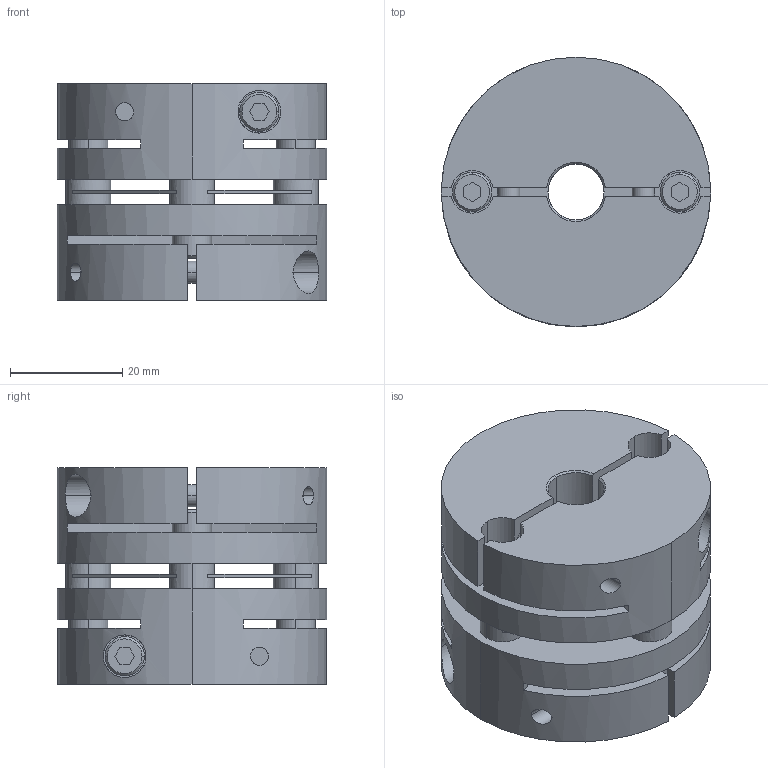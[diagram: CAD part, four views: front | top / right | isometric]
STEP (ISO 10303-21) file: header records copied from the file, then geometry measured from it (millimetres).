
FILE_DESCRIPTION((''),'2;1');
FILE_NAME('LAS-48C-10×10.stp','2015-10-14T15:33:41',(''),(''),'AutoCAD STEP 2000i','AutoCAD 2000i',', , ');
FILE_SCHEMA(('CONFIG_CONTROL_DESIGN'));
Length unit declared in the file: millimetre
Products named in the file (5): LAS-48C-12×12; 忣兜1; LA-4802-D12-1; LA-4802-D12; LAS48-ITA
Assembly tree (4 placements, depth 2):
  LAS-48C-12×12
    忣兜1
    LA-4802-D12-1
    LA-4802-D12
    LAS48-ITA
Bounding box: 48 x 48 x 38.6 mm (x, y, z)
Volume: 52812 mm3; surface area: 22837.2 mm2
Topology: 1 solids, 1 shells, 224 faces, 588 edges, 384 vertices
Faces by surface type: plane 112, cylinder 84, cone 28
Entity records: 7607 total; most frequent: CARTESIAN_POINT 1713, DIRECTION 1250, ORIENTED_EDGE 1176, EDGE_CURVE 588, AXIS2_PLACEMENT_3D 457, VERTEX_POINT 384, VECTOR 336, LINE 336
